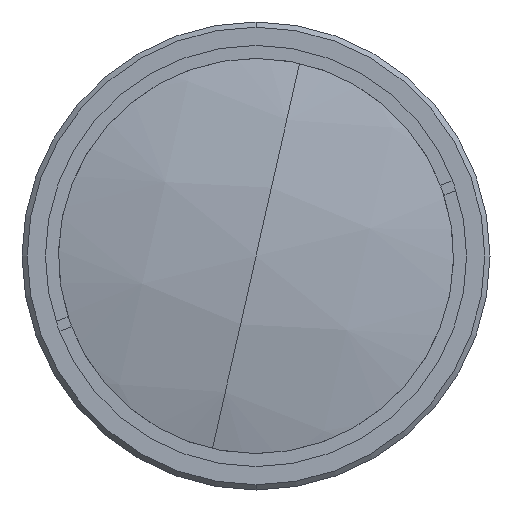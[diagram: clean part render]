
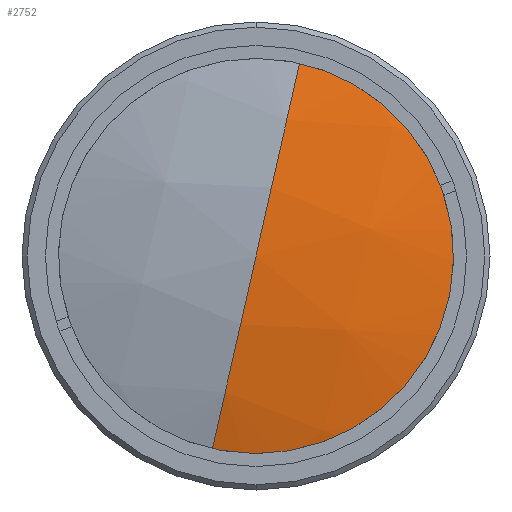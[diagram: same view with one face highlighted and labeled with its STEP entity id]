
A CAD part, front view. The second image highlights one B-rep face of the part: STEP entity #2752.
In plain terms, the highlighted spherical face has radius 78.085 mm.
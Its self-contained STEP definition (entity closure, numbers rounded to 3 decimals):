
#56 = VERTEX_POINT ( 'NONE', #1162 ) ;
#226 = CIRCLE ( 'NONE', #1990, 78.085 ) ;
#239 = AXIS2_PLACEMENT_3D ( 'NONE', #2520, #1481, #836 ) ;
#329 = DIRECTION ( 'NONE',  ( 0.975, 0., -0.22 ) ) ;
#370 = CIRCLE ( 'NONE', #899, 20. ) ;
#373 = CARTESIAN_POINT ( 'NONE',  ( -6.641, 51.154, 0. ) ) ;
#607 = CARTESIAN_POINT ( 'NONE',  ( -6.641, -26.931, 0. ) ) ;
#788 = ORIENTED_EDGE ( 'NONE', *, *, #2541, .T. ) ;
#836 = DIRECTION ( 'NONE',  ( -0.22, 0., -0.975 ) ) ;
#899 = AXIS2_PLACEMENT_3D ( 'NONE', #2591, #1939, #2630 ) ;
#1100 = EDGE_CURVE ( 'NONE', #56, #1338, #226, .T. ) ;
#1162 = CARTESIAN_POINT ( 'NONE',  ( -2.231, -24.327, 19.508 ) ) ;
#1239 = VERTEX_POINT ( 'NONE', #2345 ) ;
#1338 = VERTEX_POINT ( 'NONE', #607 ) ;
#1457 = DIRECTION ( 'NONE',  ( -0.975, 0., 0.22 ) ) ;
#1481 = DIRECTION ( 'NONE',  ( 0.975, 0., -0.22 ) ) ;
#1915 = EDGE_LOOP ( 'NONE', ( #788, #2012, #2671 ) ) ;
#1939 = DIRECTION ( 'NONE',  ( 0., -1., 0. ) ) ;
#1990 = AXIS2_PLACEMENT_3D ( 'NONE', #2256, #329, #2432 ) ;
#2011 = FACE_OUTER_BOUND ( 'NONE', #1915, .T. ) ;
#2012 = ORIENTED_EDGE ( 'NONE', *, *, #1100, .T. ) ;
#2141 = DIRECTION ( 'NONE',  ( 0.22, 0., 0.975 ) ) ;
#2211 = AXIS2_PLACEMENT_3D ( 'NONE', #373, #1457, #2141 ) ;
#2256 = CARTESIAN_POINT ( 'NONE',  ( -6.641, 51.154, 0. ) ) ;
#2343 = SPHERICAL_SURFACE ( 'NONE', #239, 78.085 ) ;
#2345 = CARTESIAN_POINT ( 'NONE',  ( -11.05, -24.327, -19.508 ) ) ;
#2375 = EDGE_CURVE ( 'NONE', #1239, #1338, #2391, .T. ) ;
#2391 = CIRCLE ( 'NONE', #2211, 78.085 ) ;
#2432 = DIRECTION ( 'NONE',  ( -0.22, 0., -0.975 ) ) ;
#2520 = CARTESIAN_POINT ( 'NONE',  ( -6.641, 51.154, 0. ) ) ;
#2541 = EDGE_CURVE ( 'NONE', #1239, #56, #370, .T. ) ;
#2591 = CARTESIAN_POINT ( 'NONE',  ( -6.641, -24.327, 0. ) ) ;
#2630 = DIRECTION ( 'NONE',  ( -0.975, 0., 0.22 ) ) ;
#2671 = ORIENTED_EDGE ( 'NONE', *, *, #2375, .F. ) ;
#2752 = ADVANCED_FACE ( 'NONE', ( #2011 ), #2343, .T. ) ;
